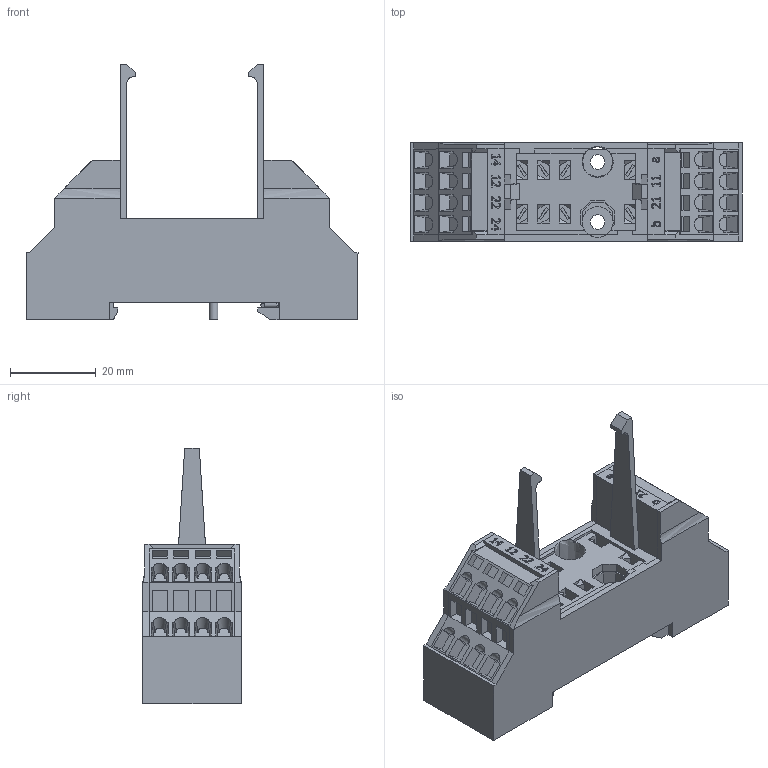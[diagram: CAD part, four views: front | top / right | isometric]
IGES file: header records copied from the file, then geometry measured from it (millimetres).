
Global section: file name: No Iges File Name specified; native system: Autodesk Inventor 2009; preprocessor: AutoDesk Inventor Iges Exporter R2009; author: Niriawan; date: 20080814.105618; units: millimetre
Bounding box: 77.3 x 23 x 59.6 mm (x, y, z)
Volume: 31538.8 mm3; surface area: 20369.9 mm2
Topology: 2 solids, 2 shells, 1015 faces, 2800 edges, 1819 vertices
Faces by surface type: plane 873, bspline 84, revolution 31, cylinder 21, torus 6
